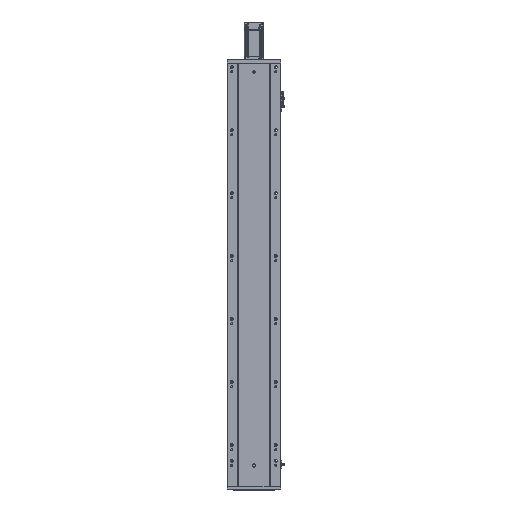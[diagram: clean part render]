
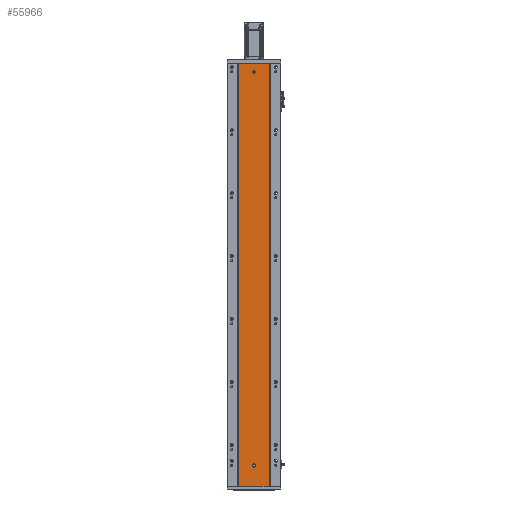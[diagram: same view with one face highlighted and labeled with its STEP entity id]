
A CAD part, front view. The second image highlights one B-rep face of the part: STEP entity #55966.
In plain terms, the highlighted planar face has unit normal (0, -1, 0).
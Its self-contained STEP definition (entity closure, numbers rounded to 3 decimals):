
#766 = VERTEX_POINT ( 'NONE', #45266 ) ;
#816 = CARTESIAN_POINT ( 'NONE',  ( 86.97, 79.476, 0. ) ) ;
#1482 = AXIS2_PLACEMENT_3D ( 'NONE', #26610, #43418, #10958 ) ;
#2603 = EDGE_CURVE ( 'NONE', #33141, #48668, #62645, .T. ) ;
#3430 = VECTOR ( 'NONE', #44886, 1000. ) ;
#3537 = CARTESIAN_POINT ( 'NONE',  ( 185.97, 79.476, 0. ) ) ;
#3694 = EDGE_LOOP ( 'NONE', ( #58010, #37141, #48612, #25082 ) ) ;
#3767 = EDGE_CURVE ( 'NONE', #43663, #64867, #21175, .T. ) ;
#3975 = CARTESIAN_POINT ( 'NONE',  ( 86.97, 79.476, 0. ) ) ;
#3979 = CARTESIAN_POINT ( 'NONE',  ( 132.47, 79.476, 67.5 ) ) ;
#4160 = ORIENTED_EDGE ( 'NONE', *, *, #8180, .F. ) ;
#6142 = VERTEX_POINT ( 'NONE', #3537 ) ;
#6638 = VECTOR ( 'NONE', #55926, 1000. ) ;
#7190 = VERTEX_POINT ( 'NONE', #24046 ) ;
#8180 = EDGE_CURVE ( 'NONE', #766, #34957, #40969, .T. ) ;
#8480 = CARTESIAN_POINT ( 'NONE',  ( 136.47, 79.476, 1316. ) ) ;
#9259 = CARTESIAN_POINT ( 'NONE',  ( 86.97, 79.476, 448. ) ) ;
#10958 = DIRECTION ( 'NONE',  ( 0., 0., -1. ) ) ;
#13104 = DIRECTION ( 'NONE',  ( 0., -1., 0. ) ) ;
#14051 = DIRECTION ( 'NONE',  ( 0., 0., -1. ) ) ;
#14770 = CARTESIAN_POINT ( 'NONE',  ( 86.97, 79.476, 1344. ) ) ;
#16507 = EDGE_CURVE ( 'NONE', #22832, #6142, #33426, .T. ) ;
#16778 = DIRECTION ( 'NONE',  ( 0., 0., -1. ) ) ;
#16780 = AXIS2_PLACEMENT_3D ( 'NONE', #31279, #64749, #36847 ) ;
#21109 = EDGE_CURVE ( 'NONE', #7190, #22832, #29886, .T. ) ;
#21175 = CIRCLE ( 'NONE', #69142, 4. ) ;
#21498 = DIRECTION ( 'NONE',  ( 0., 0., 1. ) ) ;
#22261 = CARTESIAN_POINT ( 'NONE',  ( 132.47, 79.476, 64.5 ) ) ;
#22266 = VECTOR ( 'NONE', #34224, 1000. ) ;
#22832 = VERTEX_POINT ( 'NONE', #816 ) ;
#23204 = CIRCLE ( 'NONE', #60815, 4. ) ;
#23481 = VERTEX_POINT ( 'NONE', #49534 ) ;
#23691 = CARTESIAN_POINT ( 'NONE',  ( 136.47, 79.476, 64.5 ) ) ;
#23745 = ORIENTED_EDGE ( 'NONE', *, *, #47060, .F. ) ;
#24046 = CARTESIAN_POINT ( 'NONE',  ( 86.97, 79.476, 1344. ) ) ;
#24104 = FACE_BOUND ( 'NONE', #36524, .T. ) ;
#24760 = VECTOR ( 'NONE', #14051, 1000. ) ;
#25082 = ORIENTED_EDGE ( 'NONE', *, *, #21109, .T. ) ;
#26610 = CARTESIAN_POINT ( 'NONE',  ( 136.47, 79.476, 67.5 ) ) ;
#26845 = CARTESIAN_POINT ( 'NONE',  ( 140.47, 79.476, 67.5 ) ) ;
#28572 = CARTESIAN_POINT ( 'NONE',  ( 0., 79.476, 1344. ) ) ;
#29112 = EDGE_LOOP ( 'NONE', ( #23745, #68003, #48058, #38485, #4160 ) ) ;
#29886 = B_SPLINE_CURVE_WITH_KNOTS ( 'NONE', 3,
 ( #14770, #58271, #9259, #3975 ),
 .UNSPECIFIED., .F., .F.,
 ( 4, 4 ),
 ( 0., 1. ),
 .UNSPECIFIED. ) ;
#30408 = CARTESIAN_POINT ( 'NONE',  ( 185.97, 79.476, 448. ) ) ;
#31279 = CARTESIAN_POINT ( 'NONE',  ( 136.47, 79.476, 64.5 ) ) ;
#31372 = EDGE_CURVE ( 'NONE', #7190, #23481, #35890, .T. ) ;
#33141 = VERTEX_POINT ( 'NONE', #51926 ) ;
#33426 = LINE ( 'NONE', #71293, #22266 ) ;
#34224 = DIRECTION ( 'NONE',  ( 1., 0., 0. ) ) ;
#34957 = VERTEX_POINT ( 'NONE', #44141 ) ;
#35890 = LINE ( 'NONE', #28572, #6638 ) ;
#35990 = B_SPLINE_CURVE_WITH_KNOTS ( 'NONE', 3,
 ( #63369, #40769, #30408, #68671 ),
 .UNSPECIFIED., .F., .F.,
 ( 4, 4 ),
 ( 0., 1. ),
 .UNSPECIFIED. ) ;
#36116 = LINE ( 'NONE', #26845, #3430 ) ;
#36524 = EDGE_LOOP ( 'NONE', ( #46011, #69291 ) ) ;
#36847 = DIRECTION ( 'NONE',  ( 0., 0., -1. ) ) ;
#37141 = ORIENTED_EDGE ( 'NONE', *, *, #58817, .F. ) ;
#37629 = CARTESIAN_POINT ( 'NONE',  ( 0., 79.476, 1344. ) ) ;
#38485 = ORIENTED_EDGE ( 'NONE', *, *, #46888, .F. ) ;
#38728 = AXIS2_PLACEMENT_3D ( 'NONE', #37629, #54403, #21498 ) ;
#39541 = EDGE_CURVE ( 'NONE', #43022, #33141, #68113, .T. ) ;
#39665 = FACE_OUTER_BOUND ( 'NONE', #3694, .T. ) ;
#40769 = CARTESIAN_POINT ( 'NONE',  ( 185.97, 79.476, 896. ) ) ;
#40969 = CIRCLE ( 'NONE', #16780, 4. ) ;
#41357 = FACE_BOUND ( 'NONE', #29112, .T. ) ;
#43022 = VERTEX_POINT ( 'NONE', #44449 ) ;
#43418 = DIRECTION ( 'NONE',  ( 0., -1., 0. ) ) ;
#43663 = VERTEX_POINT ( 'NONE', #50576 ) ;
#44141 = CARTESIAN_POINT ( 'NONE',  ( 140.47, 79.476, 64.5 ) ) ;
#44449 = CARTESIAN_POINT ( 'NONE',  ( 140.47, 79.476, 67.5 ) ) ;
#44886 = DIRECTION ( 'NONE',  ( 0., 0., 1. ) ) ;
#44934 = DIRECTION ( 'NONE',  ( 0., -1., 0. ) ) ;
#45266 = CARTESIAN_POINT ( 'NONE',  ( 136.47, 79.476, 60.5 ) ) ;
#46011 = ORIENTED_EDGE ( 'NONE', *, *, #66850, .F. ) ;
#46888 = EDGE_CURVE ( 'NONE', #34957, #43022, #36116, .T. ) ;
#47060 = EDGE_CURVE ( 'NONE', #48668, #766, #23204, .T. ) ;
#48058 = ORIENTED_EDGE ( 'NONE', *, *, #39541, .F. ) ;
#48612 = ORIENTED_EDGE ( 'NONE', *, *, #31372, .F. ) ;
#48668 = VERTEX_POINT ( 'NONE', #22261 ) ;
#49534 = CARTESIAN_POINT ( 'NONE',  ( 185.97, 79.476, 1344. ) ) ;
#49710 = CARTESIAN_POINT ( 'NONE',  ( 136.47, 79.476, 1316. ) ) ;
#50576 = CARTESIAN_POINT ( 'NONE',  ( 136.47, 79.476, 1320. ) ) ;
#51926 = CARTESIAN_POINT ( 'NONE',  ( 132.47, 79.476, 67.5 ) ) ;
#51936 = DIRECTION ( 'NONE',  ( 0., -1., 0. ) ) ;
#52350 = CIRCLE ( 'NONE', #67862, 4. ) ;
#54403 = DIRECTION ( 'NONE',  ( 0., 1., 0. ) ) ;
#55926 = DIRECTION ( 'NONE',  ( 1., 0., 0. ) ) ;
#55966 = ADVANCED_FACE ( 'NONE', ( #41357, #24104, #39665 ), #60215, .F. ) ;
#57481 = DIRECTION ( 'NONE',  ( 0., 0., -1. ) ) ;
#58010 = ORIENTED_EDGE ( 'NONE', *, *, #16507, .T. ) ;
#58271 = CARTESIAN_POINT ( 'NONE',  ( 86.97, 79.476, 896. ) ) ;
#58817 = EDGE_CURVE ( 'NONE', #23481, #6142, #35990, .T. ) ;
#60215 = PLANE ( 'NONE',  #38728 ) ;
#60815 = AXIS2_PLACEMENT_3D ( 'NONE', #23691, #13104, #68218 ) ;
#62645 = LINE ( 'NONE', #3979, #24760 ) ;
#63369 = CARTESIAN_POINT ( 'NONE',  ( 185.97, 79.476, 1344. ) ) ;
#64749 = DIRECTION ( 'NONE',  ( 0., -1., 0. ) ) ;
#64867 = VERTEX_POINT ( 'NONE', #66432 ) ;
#66432 = CARTESIAN_POINT ( 'NONE',  ( 136.47, 79.476, 1312. ) ) ;
#66850 = EDGE_CURVE ( 'NONE', #64867, #43663, #52350, .T. ) ;
#67862 = AXIS2_PLACEMENT_3D ( 'NONE', #49710, #44934, #16778 ) ;
#68003 = ORIENTED_EDGE ( 'NONE', *, *, #2603, .F. ) ;
#68113 = CIRCLE ( 'NONE', #1482, 4. ) ;
#68218 = DIRECTION ( 'NONE',  ( 0., 0., -1. ) ) ;
#68671 = CARTESIAN_POINT ( 'NONE',  ( 185.97, 79.476, 0. ) ) ;
#69142 = AXIS2_PLACEMENT_3D ( 'NONE', #8480, #51936, #57481 ) ;
#69291 = ORIENTED_EDGE ( 'NONE', *, *, #3767, .F. ) ;
#71293 = CARTESIAN_POINT ( 'NONE',  ( 0., 79.476, 0. ) ) ;
